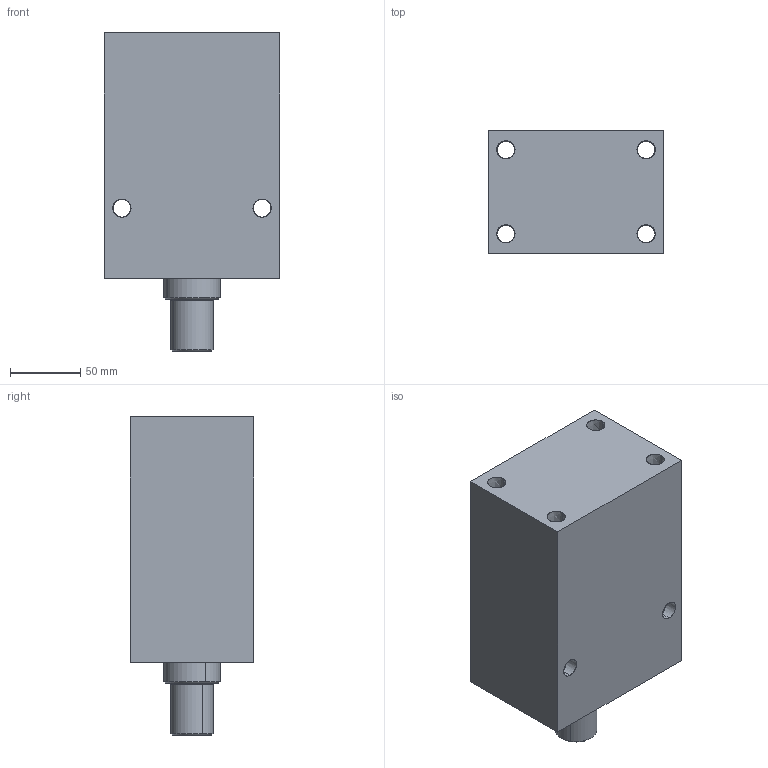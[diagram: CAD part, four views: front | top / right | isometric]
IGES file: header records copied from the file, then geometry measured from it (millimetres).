
Start section: SolidWorks IGES file using analytic representation for surfaces
Global section: file name: D:\karuppas\Clasp\3D model\Block cylinder B01C-Male thread - Copy\B01C-610M\Block cylinder B01C-6100M.IGS; native system: SolidWorks 2017; preprocessor: SolidWorks 2017; author: pc; date: 220709.234433; units: millimetre
Bounding box: 125 x 88 x 227 mm (x, y, z)
Surface area: 163315.2 mm2 (no closed solid volume)
Topology: 0 solids, 0 shells, 369 faces, 5802 edges, 5798 vertices
Faces by surface type: bspline 315, revolution 54
